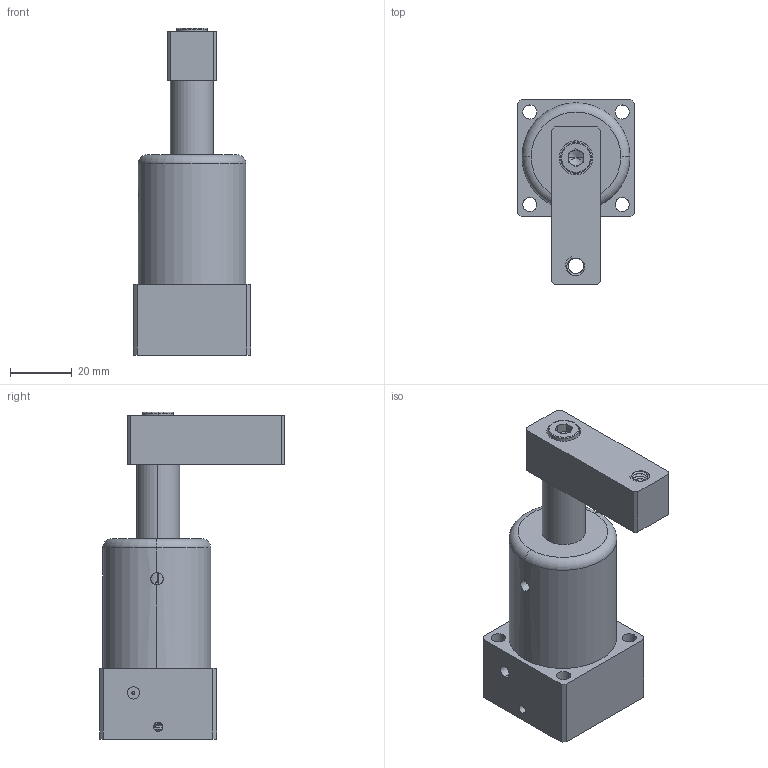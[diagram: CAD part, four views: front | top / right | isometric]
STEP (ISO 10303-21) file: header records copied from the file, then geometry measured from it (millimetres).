
FILE_DESCRIPTION(('FreeCAD Model'),'2;1');
FILE_NAME('Open CASCADE Shape Model','2021-08-17T23:26:57',('Author'),( ''),'Open CASCADE STEP processor 7.4','FreeCAD','Unknown');
FILE_SCHEMA(('AUTOMOTIVE_DESIGN { 1 0 10303 214 1 1 1 1 }'));
Length unit declared in the file: millimetre
Products named in the file (8): ASC-25S; ASC-25-001; ASC-25-002; ASC-25-003; ASC-25-004; ASC-25-005; ASC-25-006; ASC-25-007
Assembly tree (7 placements, depth 2):
  ASC-25S
    ASC-25-001
    ASC-25-002
    ASC-25-003
    ASC-25-004
    ASC-25-005
    ASC-25-006
    ASC-25-007
Bounding box: 38 x 60 x 106.2 mm (x, y, z)
Volume: 75455.7 mm3; surface area: 33789.3 mm2
Topology: 7 solids, 7 shells, 308 faces, 776 edges, 490 vertices
Faces by surface type: cylinder 150, cone 70, plane 56, torus 18, bspline 14
Entity records: 32035 total; most frequent: CARTESIAN_POINT 16810, DIRECTION 2774, ORIENTED_EDGE 1540, PCURVE 1540, DEFINITIONAL_REPRESENTATION 1540, LINE 1448, VECTOR 1448, EDGE_CURVE 770
